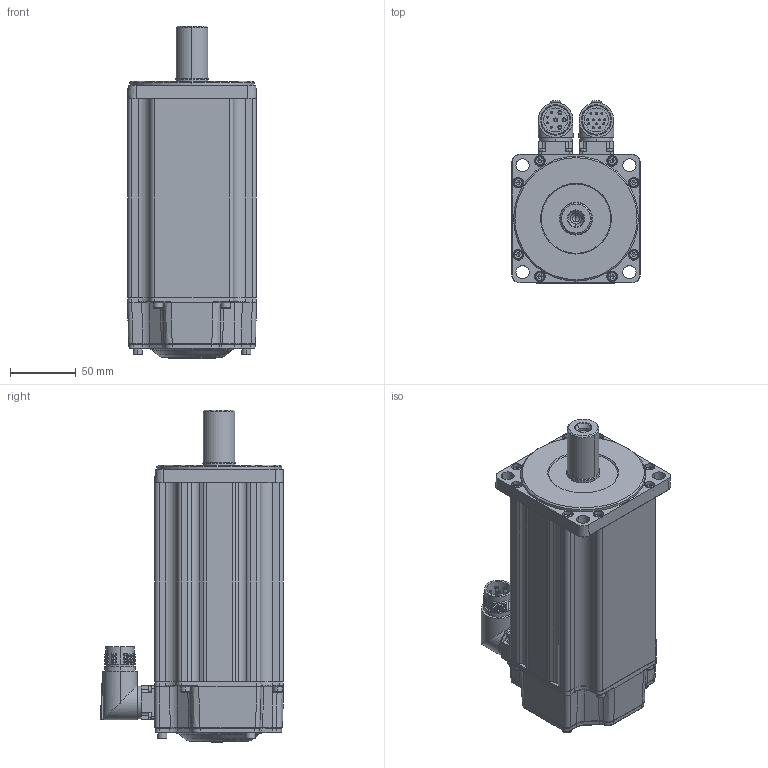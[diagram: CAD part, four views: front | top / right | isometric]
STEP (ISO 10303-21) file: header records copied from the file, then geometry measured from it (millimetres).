
FILE_DESCRIPTION (( 'STEP AP203' ), '1' );
FILE_NAME ('MC20-100-3L30-N252-0¡õPL-NNNN.STEP', '2025-07-29T14:47:24', ( '' ), ( '' ), 'SwSTEP 2.0', 'SolidWorks 2014', '' );
FILE_SCHEMA (( 'CONFIG_CONTROL_DESIGN' ));
Length unit declared in the file: millimetre
Products named in the file (1): MC20-100-3L30-N252-0¡õPL-NNNN
Bounding box: 98.04 x 139.27 x 252.49 mm (x, y, z)
Volume: 1900558.5 mm3; surface area: 210729.2 mm2
Topology: 31 solids, 31 shells, 2062 faces, 4785 edges, 2837 vertices
Faces by surface type: plane 759, cylinder 542, cone 363, bspline 211, torus 182, sphere 5
Entity records: 64362 total; most frequent: CARTESIAN_POINT 18685, DIRECTION 9633, ORIENTED_EDGE 9382, EDGE_CURVE 4691, AXIS2_PLACEMENT_3D 3761, VERTEX_POINT 2837, EDGE_LOOP 2280, LINE 2111
